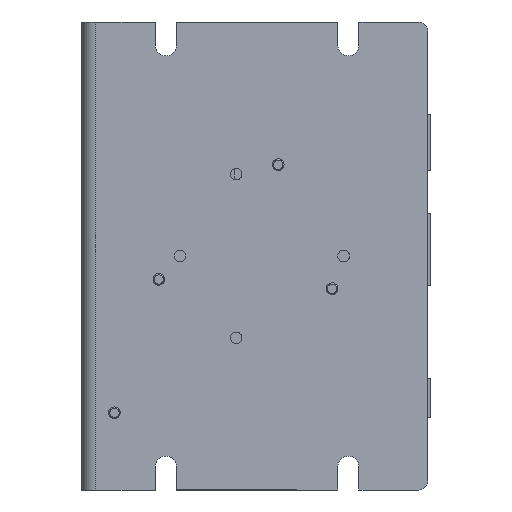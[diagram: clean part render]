
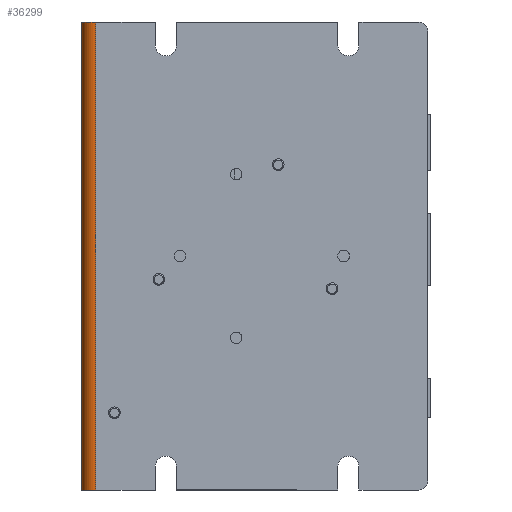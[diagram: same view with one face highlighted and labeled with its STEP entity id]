
A CAD part, front view. The second image highlights one B-rep face of the part: STEP entity #36299.
In plain terms, the highlighted cylindrical face has radius 3 mm (diameter 6 mm), a partial arc.
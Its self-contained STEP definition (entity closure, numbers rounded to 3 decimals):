
#2633 = CIRCLE ( 'NONE', #21279, 3. ) ;
#4171 = VECTOR ( 'NONE', #39436, 1000. ) ;
#5208 = EDGE_CURVE ( 'NONE', #23863, #9987, #7916, .T. ) ;
#7916 = CIRCLE ( 'NONE', #22899, 3. ) ;
#8330 = ORIENTED_EDGE ( 'NONE', *, *, #14645, .F. ) ;
#8332 = VECTOR ( 'NONE', #37262, 1000. ) ;
#9987 = VERTEX_POINT ( 'NONE', #10098 ) ;
#10098 = CARTESIAN_POINT ( 'NONE',  ( 1., -2., -50. ) ) ;
#10417 = EDGE_LOOP ( 'NONE', ( #13380, #8330, #35192, #14272 ) ) ;
#12719 = LINE ( 'NONE', #15442, #4171 ) ;
#13380 = ORIENTED_EDGE ( 'NONE', *, *, #5208, .T. ) ;
#14272 = ORIENTED_EDGE ( 'NONE', *, *, #22184, .T. ) ;
#14645 = EDGE_CURVE ( 'NONE', #33753, #9987, #12719, .T. ) ;
#15442 = CARTESIAN_POINT ( 'NONE',  ( 1., -2., 50. ) ) ;
#15671 = CARTESIAN_POINT ( 'NONE',  ( -2., 1., -50. ) ) ;
#16581 = CYLINDRICAL_SURFACE ( 'NONE', #31837, 3. ) ;
#17512 = FACE_OUTER_BOUND ( 'NONE', #10417, .T. ) ;
#19107 = CARTESIAN_POINT ( 'NONE',  ( -2., 1., 50. ) ) ;
#19355 = DIRECTION ( 'NONE',  ( 0., 0., 1. ) ) ;
#20067 = CARTESIAN_POINT ( 'NONE',  ( 1., 1., 50. ) ) ;
#21279 = AXIS2_PLACEMENT_3D ( 'NONE', #33177, #36375, #33711 ) ;
#22017 = DIRECTION ( 'NONE',  ( 1., 0., 0. ) ) ;
#22184 = EDGE_CURVE ( 'NONE', #25124, #23863, #23560, .T. ) ;
#22899 = AXIS2_PLACEMENT_3D ( 'NONE', #31366, #19355, #22017 ) ;
#23560 = LINE ( 'NONE', #19107, #8332 ) ;
#23863 = VERTEX_POINT ( 'NONE', #15671 ) ;
#24754 = CARTESIAN_POINT ( 'NONE',  ( 1., -2., 50. ) ) ;
#25124 = VERTEX_POINT ( 'NONE', #26809 ) ;
#26209 = DIRECTION ( 'NONE',  ( 0., 0., -1. ) ) ;
#26809 = CARTESIAN_POINT ( 'NONE',  ( -2., 1., 50. ) ) ;
#31366 = CARTESIAN_POINT ( 'NONE',  ( 1., 1., -50. ) ) ;
#31837 = AXIS2_PLACEMENT_3D ( 'NONE', #20067, #26209, #35417 ) ;
#33177 = CARTESIAN_POINT ( 'NONE',  ( 1., 1., 50. ) ) ;
#33538 = EDGE_CURVE ( 'NONE', #25124, #33753, #2633, .T. ) ;
#33711 = DIRECTION ( 'NONE',  ( 1., 0., 0. ) ) ;
#33753 = VERTEX_POINT ( 'NONE', #24754 ) ;
#35192 = ORIENTED_EDGE ( 'NONE', *, *, #33538, .F. ) ;
#35417 = DIRECTION ( 'NONE',  ( -1., 0., 0. ) ) ;
#36299 = ADVANCED_FACE ( 'NONE', ( #17512 ), #16581, .T. ) ;
#36375 = DIRECTION ( 'NONE',  ( 0., 0., 1. ) ) ;
#37262 = DIRECTION ( 'NONE',  ( 0., 0., -1. ) ) ;
#39436 = DIRECTION ( 'NONE',  ( 0., 0., -1. ) ) ;
